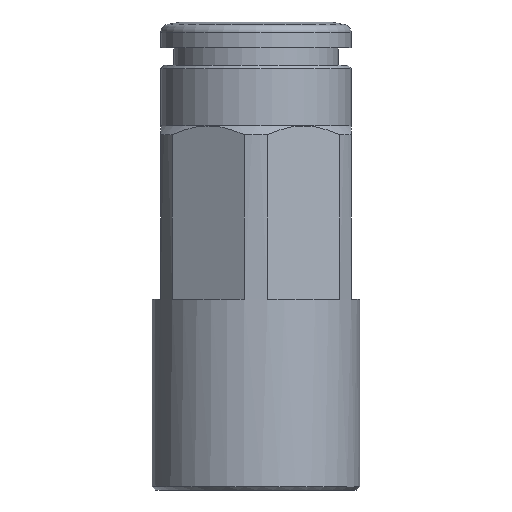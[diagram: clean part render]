
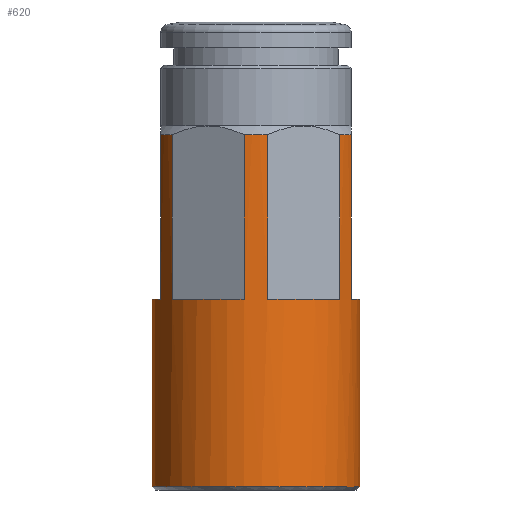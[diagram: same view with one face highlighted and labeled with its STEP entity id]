
A CAD part, left-side view. The second image highlights one B-rep face of the part: STEP entity #620.
In plain terms, the highlighted cylindrical face has radius 6 mm (diameter 12 mm), a full revolution.
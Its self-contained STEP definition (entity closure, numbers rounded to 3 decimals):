
#620=ADVANCED_FACE('', (#630,#640), #650, .T.);
#3250=AXIS2_PLACEMENT_3D('Ax2Pl3d', #3260, #3270, #3280);
#3290=AXIS2_PLACEMENT_3D('Ax2Pl3d', #3300, #3310, #3320);
#3330=AXIS2_PLACEMENT_3D('Ax2Pl3d', #3340, #3350, #3360);
#3370=AXIS2_PLACEMENT_3D('Ax2Pl3d', #3380, #3390, #3400);
#3410=AXIS2_PLACEMENT_3D('Ax2Pl3d', #3420, #3430, #3440);
#3450=AXIS2_PLACEMENT_3D('Ax2Pl3d', #3460, #3470, #3480);
#3490=AXIS2_PLACEMENT_3D('Ax2Pl3d', #3500, #3510, #3520);
#3530=AXIS2_PLACEMENT_3D('Ax2Pl3d', #3540, #3550, #3560);
#3570=AXIS2_PLACEMENT_3D('Ax2Pl3d', #3580, #3590, #3600);
#3610=AXIS2_PLACEMENT_3D('Ax2Pl3d', #3620, #3630, #3640);
#3650=AXIS2_PLACEMENT_3D('Ax2Pl3d', #3660, #3670, #3680);
#3690=AXIS2_PLACEMENT_3D('Ax2Pl3d', #3700, #3710, #3720);
#3730=AXIS2_PLACEMENT_3D('Ax2Pl3d', #3740, #3750, #3760);
#3770=AXIS2_PLACEMENT_3D('Ax2Pl3d', #3780, #3790, #3800);
#3260=CARTESIAN_POINT('HicPkt', (8.039,0.,25.006));
#3300=CARTESIAN_POINT('HicPkt', (8.039,0.,4.706));
#7410=CARTESIAN_POINT('', (8.039,-6.,4.706));
#3340=CARTESIAN_POINT('HicPkt', (8.039,0.,25.006));
#7420=CARTESIAN_POINT('', (11.603,-4.827,25.006));
#7430=CARTESIAN_POINT('', (10.437,-5.5,25.006));
#7440=CARTESIAN_POINT('', (10.437,-5.5,25.006));
#7450=CARTESIAN_POINT('', (10.437,-5.5,15.506));
#3380=CARTESIAN_POINT('HicPkt', (8.039,0.,15.506));
#7460=CARTESIAN_POINT('', (5.641,-5.5,15.506));
#7470=CARTESIAN_POINT('', (5.641,-5.5,15.506));
#7480=CARTESIAN_POINT('', (5.641,-5.5,25.006));
#3420=CARTESIAN_POINT('HicPkt', (8.039,0.,25.006));
#7490=CARTESIAN_POINT('', (4.475,-4.827,25.006));
#7500=CARTESIAN_POINT('', (4.475,-4.827,25.006))
;
#7510=CARTESIAN_POINT('', (4.475,-4.827,15.506));
#3460=CARTESIAN_POINT('HicPkt', (8.039,0.,15.506));
#7520=CARTESIAN_POINT('', (2.077,-0.673,15.506))
;
#7530=CARTESIAN_POINT('', (2.077,-0.673,15.506))
;
#7540=CARTESIAN_POINT('', (2.077,-0.673,25.006))
;
#3500=CARTESIAN_POINT('HicPkt', (8.039,0.,25.006));
#7550=CARTESIAN_POINT('', (2.077,0.673,25.006));
#7560=CARTESIAN_POINT('', (2.077,0.673,25.006));
#7570=CARTESIAN_POINT('', (2.077,0.673,15.506));
#3540=CARTESIAN_POINT('HicPkt', (8.039,0.,15.506));
#7580=CARTESIAN_POINT('', (4.475,4.827,15.506));
#7590=CARTESIAN_POINT('', (4.475,4.827,15.506));
#7600=CARTESIAN_POINT('', (4.475,4.827,25.006));
#3580=CARTESIAN_POINT('HicPkt', (8.039,0.,25.006));
#7610=CARTESIAN_POINT('', (5.641,5.5,25.006));
#7620=CARTESIAN_POINT('', (5.641,5.5,25.006));
#7630=CARTESIAN_POINT('', (5.641,5.5,15.506));
#3620=CARTESIAN_POINT('HicPkt', (8.039,0.,15.506));
#7640=CARTESIAN_POINT('', (10.437,5.5,15.506));
#7650=CARTESIAN_POINT('', (10.437,5.5,15.506));
#7660=CARTESIAN_POINT('', (10.437,5.5,25.006));
#3660=CARTESIAN_POINT('HicPkt', (8.039,0.,25.006));
#7670=CARTESIAN_POINT('', (11.603,4.827,25.006));
#7680=CARTESIAN_POINT('', (11.603,4.827,25.006));
#7690=CARTESIAN_POINT('', (11.603,4.827,15.506));
#3700=CARTESIAN_POINT('HicPkt', (8.039,0.,15.506));
#7700=CARTESIAN_POINT('', (14.001,0.673,15.506));
#7710=CARTESIAN_POINT('', (14.001,0.673,15.506));
#7720=CARTESIAN_POINT('', (14.001,0.673,25.006));
#3740=CARTESIAN_POINT('HicPkt', (8.039,0.,25.006));
#7730=CARTESIAN_POINT('', (14.001,-0.673,25.006))
;
#7740=CARTESIAN_POINT('', (14.001,-0.673,25.006))
;
#7750=CARTESIAN_POINT('', (14.001,-0.673,15.506))
;
#3780=CARTESIAN_POINT('HicPkt', (8.039,0.,15.506));
#7760=CARTESIAN_POINT('', (11.603,-4.827,15.506));
#7770=CARTESIAN_POINT('', (11.603,-4.827,15.506));
#8290=CIRCLE('Circle', #3290, 6.);
#8300=CIRCLE('Circle', #3330, 6.);
#8310=CIRCLE('Circle', #3370, 6.);
#8320=CIRCLE('Circle', #3410, 6.);
#8330=CIRCLE('Circle', #3450, 6.);
#8340=CIRCLE('Circle', #3490, 6.);
#8350=CIRCLE('Circle', #3530, 6.);
#8360=CIRCLE('Circle', #3570, 6.);
#8370=CIRCLE('Circle', #3610, 6.);
#8380=CIRCLE('Circle', #3650, 6.);
#8390=CIRCLE('Circle', #3690, 6.);
#8400=CIRCLE('Circle', #3730, 6.);
#8410=CIRCLE('Circle', #3770, 6.);
#650=CYLINDRICAL_SURFACE('Zyl', #3250, 6.);
#3270=DIRECTION('Axis', (0.,0.,-1.));
#3280=DIRECTION('RefDirection', (-1.,-0.,0.));
#3310=DIRECTION('Axis', (0.,0.,-1.));
#3320=DIRECTION('RefDirection', (-1.,-0.,0.));
#3350=DIRECTION('Axis', (0.,0.,-1.));
#3360=DIRECTION('RefDirection', (-1.,-0.,0.));
#11790=DIRECTION('', (0.,0.,1.));
#3390=DIRECTION('Axis', (0.,0.,1.));
#3400=DIRECTION('RefDirection', (1.,0.,-0.));
#11800=DIRECTION('', (0.,0.,-1.));
#3430=DIRECTION('Axis', (0.,0.,-1.));
#3440=DIRECTION('RefDirection', (-1.,-0.,0.));
#11810=DIRECTION('', (0.,0.,1.));
#3470=DIRECTION('Axis', (0.,0.,1.));
#3480=DIRECTION('RefDirection', (1.,0.,-0.));
#11820=DIRECTION('', (0.,0.,-1.));
#3510=DIRECTION('Axis', (0.,0.,-1.));
#3520=DIRECTION('RefDirection', (-1.,-0.,0.));
#11830=DIRECTION('', (0.,0.,1.));
#3550=DIRECTION('Axis', (0.,0.,1.));
#3560=DIRECTION('RefDirection', (1.,0.,-0.));
#11840=DIRECTION('', (0.,0.,-1.));
#3590=DIRECTION('Axis', (0.,0.,-1.));
#3600=DIRECTION('RefDirection', (-1.,-0.,0.));
#11850=DIRECTION('', (0.,0.,1.));
#3630=DIRECTION('Axis', (0.,0.,1.));
#3640=DIRECTION('RefDirection', (1.,0.,-0.));
#11860=DIRECTION('', (0.,0.,-1.));
#3670=DIRECTION('Axis', (0.,0.,-1.));
#3680=DIRECTION('RefDirection', (-1.,-0.,0.));
#11870=DIRECTION('', (0.,0.,1.));
#3710=DIRECTION('Axis', (0.,0.,1.));
#3720=DIRECTION('RefDirection', (1.,0.,-0.));
#11880=DIRECTION('', (0.,0.,-1.));
#3750=DIRECTION('Axis', (0.,0.,-1.));
#3760=DIRECTION('RefDirection', (-1.,-0.,0.));
#11890=DIRECTION('', (0.,0.,1.));
#3790=DIRECTION('Axis', (0.,0.,1.));
#3800=DIRECTION('RefDirection', (1.,0.,-0.));
#11900=DIRECTION('', (0.,0.,-1.));
#12210=EDGE_CURVE('', #12220, #12220, #8290, .T.);
#12230=EDGE_CURVE('', #12240, #12250, #8300, .T.);
#12260=EDGE_CURVE('', #12270, #12250, #12280, .T.);
#12290=EDGE_CURVE('', #12300, #12270, #8310, .T.);
#12310=EDGE_CURVE('', #12320, #12300, #12330, .T.);
#12340=EDGE_CURVE('', #12320, #12350, #8320, .T.);
#12360=EDGE_CURVE('', #12370, #12350, #12380, .T.);
#12390=EDGE_CURVE('', #12400, #12370, #8330, .T.);
#12410=EDGE_CURVE('', #12420, #12400, #12430, .T.);
#12440=EDGE_CURVE('', #12420, #12450, #8340, .T.);
#12460=EDGE_CURVE('', #12470, #12450, #12480, .T.);
#12490=EDGE_CURVE('', #12500, #12470, #8350, .T.);
#12510=EDGE_CURVE('', #12520, #12500, #12530, .T.);
#12540=EDGE_CURVE('', #12520, #12550, #8360, .T.);
#12560=EDGE_CURVE('', #12570, #12550, #12580, .T.);
#12590=EDGE_CURVE('', #12600, #12570, #8370, .T.);
#12610=EDGE_CURVE('', #12620, #12600, #12630, .T.);
#12640=EDGE_CURVE('', #12620, #12650, #8380, .T.);
#12660=EDGE_CURVE('', #12670, #12650, #12680, .T.);
#12690=EDGE_CURVE('', #12700, #12670, #8390, .T.);
#12710=EDGE_CURVE('', #12720, #12700, #12730, .T.);
#12740=EDGE_CURVE('', #12720, #12750, #8400, .T.);
#12760=EDGE_CURVE('', #12770, #12750, #12780, .T.);
#12790=EDGE_CURVE('', #12800, #12770, #8410, .T.);
#12810=EDGE_CURVE('', #12240, #12800, #12820, .T.);
#14110=EDGE_LOOP('Edge_loop', (#14120));
#14130=EDGE_LOOP('Edge_loop', (#14140,#14150,#14160,#14170,#14180,
#14190,#14200,#14210,#14220,#14230,#14240,#14250,#14260,#14270,#14280,
#14290,#14300,#14310,#14320,#14330,#14340,#14350,#14360,#14370));
#640=FACE_BOUND('', #14130, .T.);
#630=FACE_OUTER_BOUND('Face_outer_bound', #14110, .T.);
#12280=LINE('Line', #7440, #16610);
#12330=LINE('Line', #7470, #16620);
#12380=LINE('Line', #7500, #16630);
#12430=LINE('Line', #7530, #16640);
#12480=LINE('Line', #7560, #16650);
#12530=LINE('Line', #7590, #16660);
#12580=LINE('Line', #7620, #16670);
#12630=LINE('Line', #7650, #16680);
#12680=LINE('Line', #7680, #16690);
#12730=LINE('Line', #7710, #16700);
#12780=LINE('Line', #7740, #16710);
#12820=LINE('Line', #7770, #16720);
#14120=ORIENTED_EDGE('', *, *, #12210, .F.);
#14140=ORIENTED_EDGE('', *, *, #12230, .T.);
#14150=ORIENTED_EDGE('', *, *, #12260, .F.);
#14160=ORIENTED_EDGE('', *, *, #12290, .F.);
#14170=ORIENTED_EDGE('', *, *, #12310, .F.);
#14180=ORIENTED_EDGE('', *, *, #12340, .T.);
#14190=ORIENTED_EDGE('', *, *, #12360, .F.);
#14200=ORIENTED_EDGE('', *, *, #12390, .F.);
#14210=ORIENTED_EDGE('', *, *, #12410, .F.);
#14220=ORIENTED_EDGE('', *, *, #12440, .T.);
#14230=ORIENTED_EDGE('', *, *, #12460, .F.);
#14240=ORIENTED_EDGE('', *, *, #12490, .F.);
#14250=ORIENTED_EDGE('', *, *, #12510, .F.);
#14260=ORIENTED_EDGE('', *, *, #12540, .T.);
#14270=ORIENTED_EDGE('', *, *, #12560, .F.);
#14280=ORIENTED_EDGE('', *, *, #12590, .F.);
#14290=ORIENTED_EDGE('', *, *, #12610, .F.);
#14300=ORIENTED_EDGE('', *, *, #12640, .T.);
#14310=ORIENTED_EDGE('', *, *, #12660, .F.);
#14320=ORIENTED_EDGE('', *, *, #12690, .F.);
#14330=ORIENTED_EDGE('', *, *, #12710, .F.);
#14340=ORIENTED_EDGE('', *, *, #12740, .T.);
#14350=ORIENTED_EDGE('', *, *, #12760, .F.);
#14360=ORIENTED_EDGE('', *, *, #12790, .F.);
#14370=ORIENTED_EDGE('', *, *, #12810, .F.);
#16610=VECTOR('', #11790, 9.5);
#16620=VECTOR('', #11800, 9.5);
#16630=VECTOR('', #11810, 9.5);
#16640=VECTOR('', #11820, 9.5);
#16650=VECTOR('', #11830, 9.5);
#16660=VECTOR('', #11840, 9.5);
#16670=VECTOR('', #11850, 9.5);
#16680=VECTOR('', #11860, 9.5);
#16690=VECTOR('', #11870, 9.5);
#16700=VECTOR('', #11880, 9.5);
#16710=VECTOR('', #11890, 9.5);
#16720=VECTOR('', #11900, 9.5);
#12220=VERTEX_POINT('', #7410);
#12240=VERTEX_POINT('', #7420);
#12250=VERTEX_POINT('', #7430);
#12270=VERTEX_POINT('', #7450);
#12300=VERTEX_POINT('', #7460);
#12320=VERTEX_POINT('', #7480);
#12350=VERTEX_POINT('', #7490);
#12370=VERTEX_POINT('', #7510);
#12400=VERTEX_POINT('', #7520);
#12420=VERTEX_POINT('', #7540);
#12450=VERTEX_POINT('', #7550);
#12470=VERTEX_POINT('', #7570);
#12500=VERTEX_POINT('', #7580);
#12520=VERTEX_POINT('', #7600);
#12550=VERTEX_POINT('', #7610);
#12570=VERTEX_POINT('', #7630);
#12600=VERTEX_POINT('', #7640);
#12620=VERTEX_POINT('', #7660);
#12650=VERTEX_POINT('', #7670);
#12670=VERTEX_POINT('', #7690);
#12700=VERTEX_POINT('', #7700);
#12720=VERTEX_POINT('', #7720);
#12750=VERTEX_POINT('', #7730);
#12770=VERTEX_POINT('', #7750);
#12800=VERTEX_POINT('', #7760);
